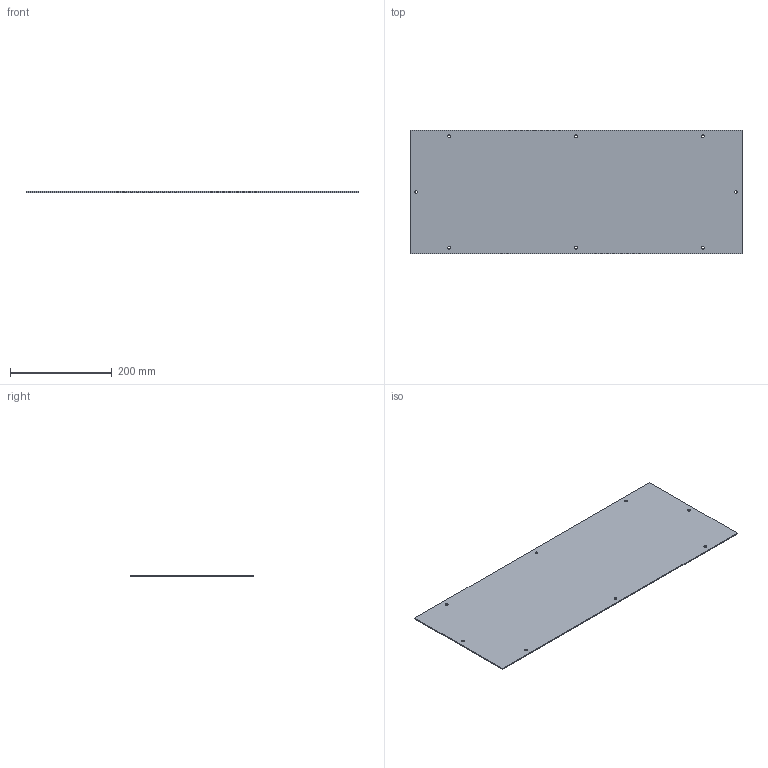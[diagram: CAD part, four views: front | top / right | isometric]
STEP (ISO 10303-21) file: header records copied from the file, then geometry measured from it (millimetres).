
FILE_DESCRIPTION(('CATIA V5 STEP Exchange'),'2;1');
FILE_NAME('D:\姚明阳\1、工装图纸\工作3、激光测距测试机箱\测试机箱\板材\Cemianban_V1.stp','2022-12-27T08:52:17+00:00',('none'),('none'),'CATIA Version 5 Release 21 GA (IN-10)','CATIA V5 STEP AP214','none');
FILE_SCHEMA(('AUTOMOTIVE_DESIGN { 1 0 10303 214 1 1 1 1 }'));
Length unit declared in the file: millimetre
Products named in the file (1): Cemianban
Bounding box: 654 x 244 x 2 mm (x, y, z)
Volume: 318771.9 mm3; surface area: 322640.3 mm2
Topology: 1 solids, 1 shells, 22 faces, 60 edges, 40 vertices
Faces by surface type: cylinder 16, plane 6
Entity records: 698 total; most frequent: ORIENTED_EDGE 120, CARTESIAN_POINT 115, DIRECTION 88, EDGE_CURVE 60, AXIS2_PLACEMENT_3D 47, VERTEX_POINT 40, EDGE_LOOP 38, CIRCLE 32
